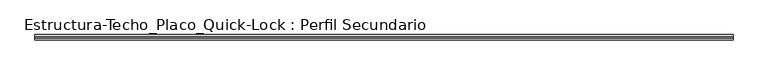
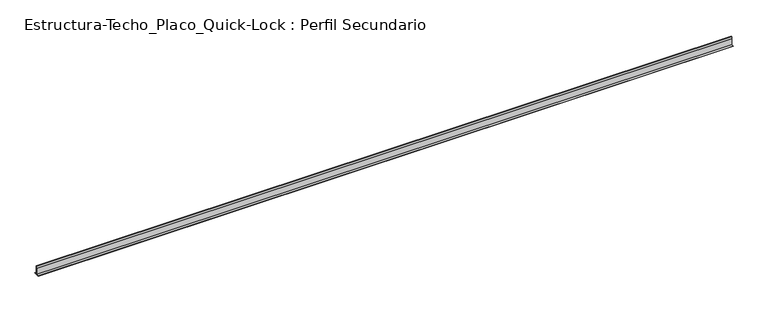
"""IFC4 building model written with IfcOpenShell, lengths in millimetres: proxy geometry, Estructura-Techo_Placo_Quick-Lock : Perfil Secundario."""

from ifc_helpers import new_model, si_unit, frame, origin, place, context, project, spatial, polyline, outline, extrude, source, transform, mapped, element, save


def estructura_techo_placo_quick_lock_perfil_secundario_4d9db738(model_context):
    return source(origin(), model_context, "Body", "SweptSolid", [
        extrude(outline(polyline([(-12.0, -0.8), (-12.0, 0.0), (-0.4, 0.0), (-0.4, 29.2), (-2.5, 29.2), (-2.5, 37.2), (2.5, 37.2), (2.5, 29.2), (0.4, 29.2), (0.4, 0.0), (12.0, 0.0), (12.0, -0.8), (-12.0, -0.8)]), holes=[polyline([(-1.7, 36.4), (-1.7, 30.0), (1.7, 30.0), (1.7, 36.4), (-1.7, 36.4)])]), frame((0.0, 0.0, 0.0), z_axis=(1.0, 0.0, 0.0), x_axis=(0.0, 1.0, 0.0)), (0.0, 0.0, 1.0), 3000.0),
    ])


if __name__ == "__main__":
    model = new_model("IFC4")
    model_context = context("Model", 3, world=origin())
    ifc_project = project(units=[si_unit("LENGTHUNIT", "METRE", prefix="MILLI")], contexts=[model_context])
    site = spatial("IfcSite", under=ifc_project)
    building = spatial("IfcBuilding", under=site)
    placement = place(None, origin())
    estructura_techo_placo_quick_lock_perfil_secundario_shape = estructura_techo_placo_quick_lock_perfil_secundario_4d9db738(model_context)
    element("IfcBuildingElementProxy", 1, Name="Estructura-Techo_Placo_Quick-Lock : Perfil Secundario", ObjectType="Estructura-Techo_Placo_Quick-Lock : Perfil Secundario", at=placement, inside=building, context=model_context, shape_type="MappedRepresentation", body=[
        mapped(estructura_techo_placo_quick_lock_perfil_secundario_shape, transform((0.0, 0.0, 0.0), x_axis=(1.0, 0.0, 0.0), y_axis=(0.0, 1.0, 0.0), z_axis=(0.0, 0.0, 1.0))),
    ])
    save(model, "model.ifc")
